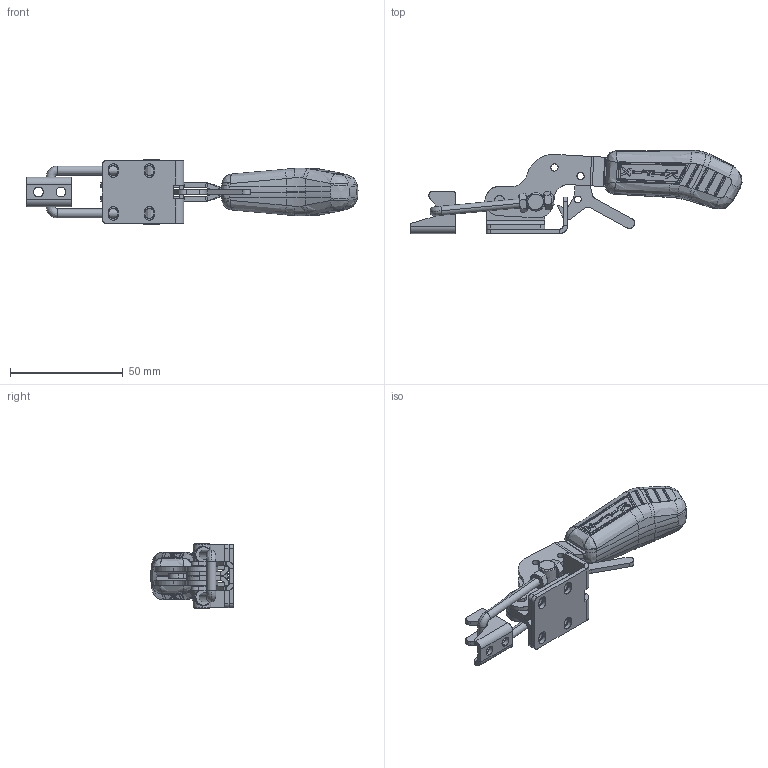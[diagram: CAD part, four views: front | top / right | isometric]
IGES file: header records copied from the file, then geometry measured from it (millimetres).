
Start section: SolidWorks IGES file using analytic representation for surfaces
Global section: file name: C:\Projetos\Grampos\KF-233\KF-233 D TR\KF-233 D TR.IGS; native system: SolidWorks 2014; preprocessor: SolidWorks 2014; author: Ricardo; date: 141112.154226; units: millimetre
Bounding box: 147.23 x 36.91 x 29 mm (x, y, z)
Surface area: 24458.3 mm2 (no closed solid volume)
Topology: 0 solids, 0 shells, 965 faces, 9861 edges, 9807 vertices
Faces by surface type: bspline 567, revolution 398
